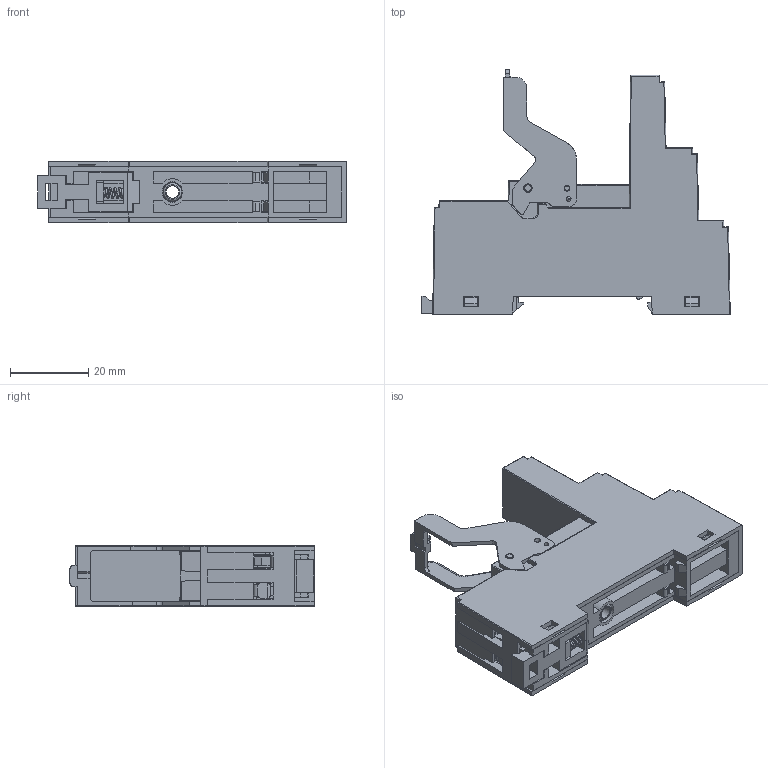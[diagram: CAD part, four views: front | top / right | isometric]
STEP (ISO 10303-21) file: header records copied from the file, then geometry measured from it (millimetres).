
FILE_DESCRIPTION(/* description */ (''),/* implementation_level */ '2;1');
FILE_NAME(/* name */ '14F-1Z-C5-ZP.stp',/* time_stamp */ '2018-08-31T15:37:05+08:00',/* author */ (''),/* organization */ (''),/* preprocessor_version */ 'ST-DEVELOPER v16.7',/* originating_system */ 'SIEMENS PLM Software NX 12.0',/* authorisation */ '');
FILE_SCHEMA (('AUTOMOTIVE_DESIGN { 1 0 10303 214 3 1 1 1 }'));
Products named in the file (9): 184; 183; 182; 181; 180; gg; 14F-1Z-C5gb; 14F-1Z-C5wk; 14F-1Z-C5-ZP
Assembly tree (8 placements, depth 2):
  14F-1Z-C5-ZP
    14F-1Z-C5wk
    14F-1Z-C5gb
    gg
    180
    181
    182
    183
    184
Bounding box: 78.8 x 62.4 x 15.6 mm (x, y, z)
Volume: 21865.4 mm3; surface area: 40479.5 mm2
Topology: 27 solids, 29 shells, 4299 faces, 12048 edges, 7681 vertices
Faces by surface type: plane 3090, cylinder 884, sphere 162, extrusion 63, bspline 54, cone 33, torus 13
Full cylindrical faces by diameter (mm): 1.2 x6, 1.8 x1, 2 x8, 2.12 x2, 2.5 x70, 3 x5, 3.15 x5, 3.2 x1, 3.6 x6, 3.7 x5, 4 x5, 4.9 x5, 5.2 x6, 6 x1
Entity records: 163409 total; most frequent: CARTESIAN_POINT 44378, ORIENTED_EDGE 23110, DIRECTION 22064, EDGE_CURVE 11555, VECTOR 8774, LINE 8711, VERTEX_POINT 7521, AXIS2_PLACEMENT_3D 6645
